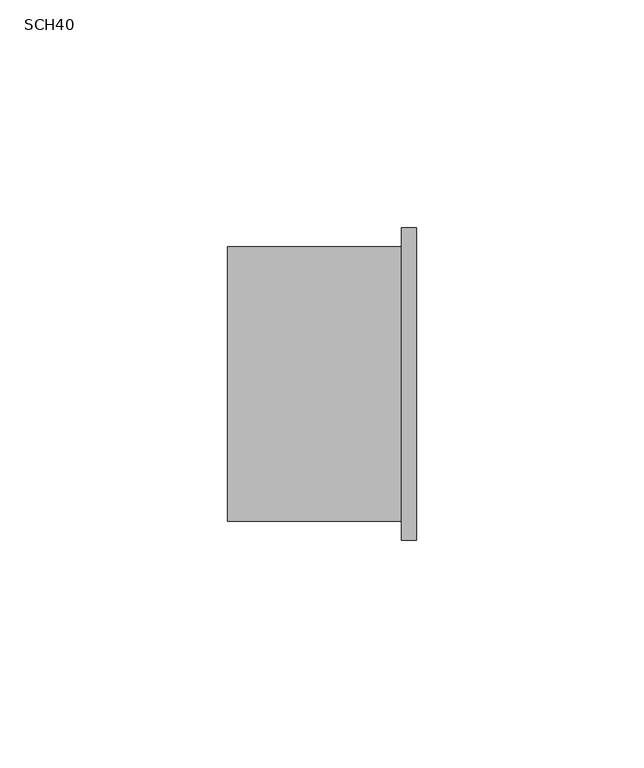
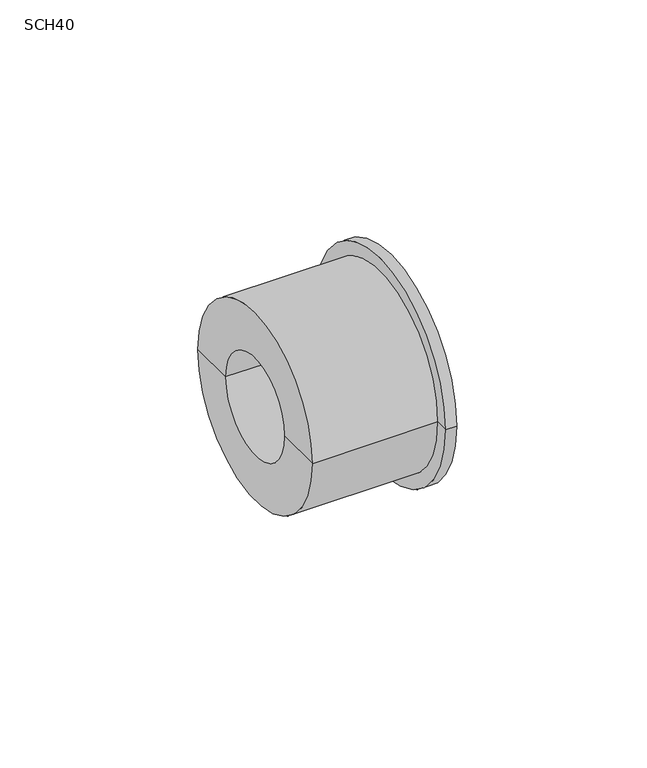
"""IFC4 building model written with IfcOpenShell, lengths in millimetres: pipe fitting geometry, PavcoWavin_UnionesDeTuberia_PVCPresionZNoUsarBuje : SCH40."""

from ifc_helpers import new_model, si_unit, frame, origin, place, context, project, spatial, polyline, circle_curve, source, transform, mapped, element, save
from ifc_brep_helpers import plane_surface, cylinder_surface, revolved_surface, advanced_brep


def sch40_08e26c66(model_context):
    return source(origin(), model_context, "Body", "AdvancedBrep", [
        advanced_brep(
        [(16.0, -16.67, 0.0), (16.0, 16.67, 0.0), (16.0, 15.67, 0.0), (16.0, -15.67, 0.0), (41.4, -16.67, 0.0), (41.4, 16.67, 0.0), (41.4, -34.25, 0.0), (41.4, 34.25, 0.0), (38.1, -34.25, 0.0), (38.1, 34.25, 0.0), (38.1, -30.165, 0.0), (38.1, 30.165, 0.0), (0.0, -30.165, 0.0), (0.0, 30.165, 0.0), (0.0, -15.67, 0.0), (0.0, 15.67, 0.0)],
        [
            (0, 1, circle_curve(frame((16.0, 0.0, 0.0), z_axis=(1.0, 0.0, 0.0), x_axis=(0.0, 1.0, 0.0)), 16.67)),
            (1, 2),
            (2, 3, circle_curve(frame((16.0, 0.0, 0.0), z_axis=(-1.0, 0.0, 0.0), x_axis=(0.0, 1.0, 0.0)), 15.67)),
            (3, 0),
            (1, 0, circle_curve(frame((16.0, 0.0, 0.0), z_axis=(1.0, 0.0, 0.0), x_axis=(0.0, 1.0, 0.0)), 16.67)),
            (3, 2, circle_curve(frame((16.0, 0.0, 0.0), z_axis=(-1.0, 0.0, 0.0), x_axis=(0.0, 1.0, 0.0)), 15.67)),
            (4, 5, circle_curve(frame((41.4, 0.0, 0.0), z_axis=(1.0, 0.0, 0.0), x_axis=(0.0, 1.0, 0.0)), 16.67)),
            (5, 1),
            (0, 4),
            (5, 4, circle_curve(frame((41.4, 0.0, 0.0), z_axis=(1.0, 0.0, 0.0), x_axis=(0.0, 1.0, 0.0)), 16.67)),
            (6, 7, circle_curve(frame((41.4, 0.0, 0.0), z_axis=(1.0, 0.0, 0.0), x_axis=(0.0, 1.0, 0.0)), 34.25)),
            (7, 5),
            (4, 6),
            (7, 6, circle_curve(frame((41.4, 0.0, 0.0), z_axis=(1.0, 0.0, 0.0), x_axis=(0.0, 1.0, 0.0)), 34.25)),
            (8, 9, circle_curve(frame((38.1, 0.0, 0.0), z_axis=(1.0, 0.0, 0.0), x_axis=(0.0, 1.0, 0.0)), 34.25)),
            (9, 7),
            (6, 8),
            (9, 8, circle_curve(frame((38.1, 0.0, 0.0), z_axis=(1.0, 0.0, 0.0), x_axis=(0.0, 1.0, 0.0)), 34.25)),
            (10, 11, circle_curve(frame((38.1, 0.0, 0.0), z_axis=(1.0, 0.0, 0.0), x_axis=(0.0, 1.0, 0.0)), 30.165)),
            (11, 9),
            (8, 10),
            (11, 10, circle_curve(frame((38.1, 0.0, 0.0), z_axis=(1.0, 0.0, 0.0), x_axis=(0.0, 1.0, 0.0)), 30.165)),
            (12, 13, circle_curve(frame((0.0, 0.0, 0.0), z_axis=(1.0, 0.0, 0.0), x_axis=(0.0, 1.0, 0.0)), 30.165)),
            (13, 11),
            (10, 12),
            (13, 12, circle_curve(frame((0.0, 0.0, 0.0), z_axis=(1.0, 0.0, 0.0), x_axis=(0.0, 1.0, 0.0)), 30.165)),
            (14, 15, circle_curve(frame((0.0, 0.0, 0.0), z_axis=(1.0, 0.0, 0.0), x_axis=(0.0, 1.0, 0.0)), 15.67)),
            (15, 13),
            (12, 14),
            (15, 14, circle_curve(frame((0.0, 0.0, 0.0), z_axis=(1.0, 0.0, 0.0), x_axis=(0.0, 1.0, 0.0)), 15.67)),
            (2, 15),
            (14, 3),
        ],
        [
            plane_surface(frame((16.0, 0.0, 0.0), z_axis=(1.0, 0.0, 0.0), x_axis=(0.0, 1.0, 0.0))),
            revolved_surface(polyline([(16.0, 16.67, 0.0), (41.40000000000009, 16.67, 0.0)]), (1951.4, 0.0, 0.0), (-1.0, 0.0, 0.0)),
            plane_surface(frame((41.4, 0.0, 0.0), z_axis=(1.0, 0.0, 0.0), x_axis=(0.0, 1.0, 0.0))),
            cylinder_surface(frame((1951.4, 0.0, 0.0), z_axis=(-1.0, 0.0, 0.0), x_axis=(0.0, 1.0, 0.0)), 34.25),
            plane_surface(frame((38.1, 0.0, 0.0), z_axis=(-1.0, 0.0, 0.0), x_axis=(0.0, 1.0, 0.0))),
            cylinder_surface(frame((1951.4, 0.0, 0.0), z_axis=(-1.0, 0.0, 0.0), x_axis=(0.0, 1.0, 0.0)), 30.165),
            plane_surface(frame((0.0, 0.0, 0.0), z_axis=(-1.0, 0.0, 0.0), x_axis=(0.0, 1.0, 0.0))),
            revolved_surface(polyline([(0.0, 15.67, 0.0), (16.0, 15.67, 0.0)]), (1951.4, 0.0, 0.0), (-1.0, 0.0, 0.0)),
        ],
        [
            (0, [[1, 2, 3, 4]]),
            (0, [[5, -4, 6, -2]]),
            (1, [[7, 8, -1, 9]]),
            (1, [[10, -9, -5, -8]]),
            (2, [[11, 12, -7, 13]]),
            (2, [[14, -13, -10, -12]]),
            (3, [[15, 16, -11, 17]]),
            (3, [[18, -17, -14, -16]]),
            (4, [[19, 20, -15, 21]]),
            (4, [[22, -21, -18, -20]]),
            (5, [[23, 24, -19, 25]]),
            (5, [[26, -25, -22, -24]]),
            (6, [[27, 28, -23, 29]]),
            (6, [[30, -29, -26, -28]]),
            (7, [[-3, 31, -27, 32]]),
            (7, [[-6, -32, -30, -31]]),
        ],
    ),
    ])


if __name__ == "__main__":
    model = new_model("IFC4")
    model_context = context("Model", 3, world=origin())
    ifc_project = project(units=[si_unit("LENGTHUNIT", "METRE", prefix="MILLI")], contexts=[model_context])
    site = spatial("IfcSite", under=ifc_project)
    building = spatial("IfcBuilding", under=site)
    placement = place(None, origin())
    sch40_shape = sch40_08e26c66(model_context)
    element("IfcPipeFitting", 1, ObjectType="PavcoWavin_UnionesDeTuberia_PVCPresionZNoUsarBuje : SCH40", at=placement, inside=building, context=model_context, shape_type="MappedRepresentation", body=[
        mapped(sch40_shape, transform((0.0, 0.0, 0.0), x_axis=(1.0, 0.0, 0.0), y_axis=(0.0, 1.0, 0.0), z_axis=(0.0, 0.0, 1.0))),
    ])
    save(model, "model.ifc")
